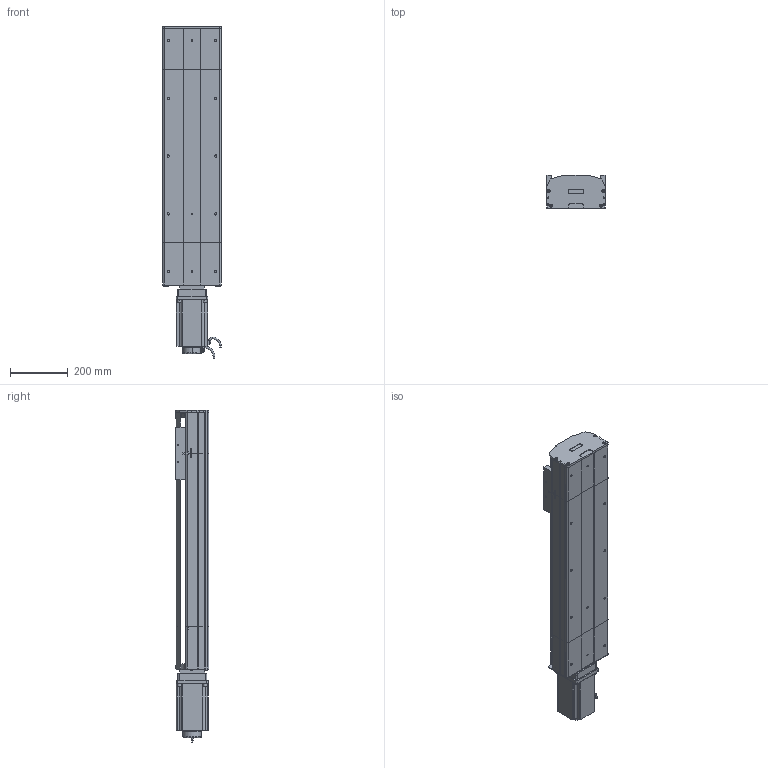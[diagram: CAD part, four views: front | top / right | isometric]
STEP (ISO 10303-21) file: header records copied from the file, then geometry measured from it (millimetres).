
FILE_DESCRIPTION (( 'STEP AP214' ), '1' );
FILE_NAME ('D20 TSH MD S600.STEP', '2010-06-30T08:32:25', ( 'Conseil Régional Haute-Normandie' ), ( 'Conseil Régional Haute-Normandie' ), 'SwSTEP 2.0', 'SolidWorks 2010', '' );
FILE_SCHEMA (( 'AUTOMOTIVE_DESIGN' ));
Length unit declared in the file: millimetre
Products named in the file (33): vis M5 L12_Default; guide D20; vis M8 L12_Default; Conecteur2_Default; Conecteur_Default; 2 vis M5 L12_Default; couvercle tail D20_Default; tail D20 S_Default; tete d''axe bas D20; corpl tail D20_Default; Chariot D20; vis M5 L25_Default; vis M5 L8 90°_Default; tete d''axe haut D20; chariot D20S_Default; clavette; plaque de  bout tail D20_Default; Arbre+rail tail D20; corp D20 S600_Default; course D20 L600_Default; Moteur motionking 110BLDC170A-640x; Plaque racord D20_Default; codeur 110BLDC170A-630x; corps 110BLDC170A-630x; avant 110BLDC170A-630x; plaque de  bout head MD D20_Default; corpl head MD D20_Default; D20 TSH MD S600; couvercle head l D20_Default; Arbre+rail head D20; couvercle D20 S600_Default; rail + arbre  D20 S600; head MD D20_Default
Assembly tree (56 placements, depth 4):
  D20 TSH MD S600
    chariot D20S_Default
      Chariot D20
      vis M5 L12_Default  x4
      guide D20  x2
    head MD D20_Default
      vis M8 L12_Default  x4
      vis M5 L25_Default  x2
      Moteur motionking 110BLDC170A-640x
        Conecteur2_Default
        corps 110BLDC170A-630x
        avant 110BLDC170A-630x
        clavette
        codeur 110BLDC170A-630x
        Conecteur_Default
      2 vis M5 L12_Default  x6
      vis M5 L12_Default  x4
      Plaque racord D20_Default
      Arbre+rail head D20
      couvercle head l D20_Default
      plaque de  bout head MD D20_Default
      corpl head MD D20_Default
    course D20 L600_Default
      corp D20 S600_Default
      rail + arbre  D20 S600
      couvercle D20 S600_Default
    tail D20 S_Default
      vis M5 L25_Default  x2
      2 vis M5 L12_Default  x4
      tete d''axe bas D20
      tete d''axe haut D20
      couvercle tail D20_Default
      corpl tail D20_Default
      vis M5 L8 90°_Default  x2
      plaque de  bout tail D20_Default
      Arbre+rail tail D20
Bounding box: 206 x 115.7 x 1148.5 mm (x, y, z)
Volume: 9820711 mm3; surface area: 1976945.1 mm2
Topology: 81 solids, 81 shells, 2208 faces, 5523 edges, 3573 vertices
Faces by surface type: plane 1336, cylinder 596, bspline 136, torus 73, cone 67
Entity records: 72010 total; most frequent: CARTESIAN_POINT 23839, ORIENTED_EDGE 8450, DIRECTION 7908, EDGE_CURVE 4225, VECTOR 2832, LINE 2832, VERTEX_POINT 2785, AXIS2_PLACEMENT_3D 2538
